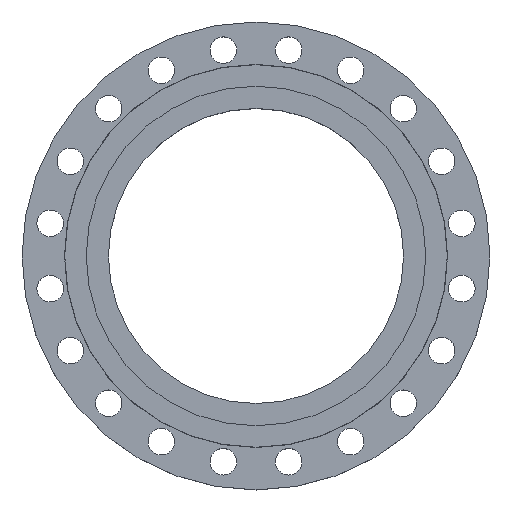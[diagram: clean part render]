
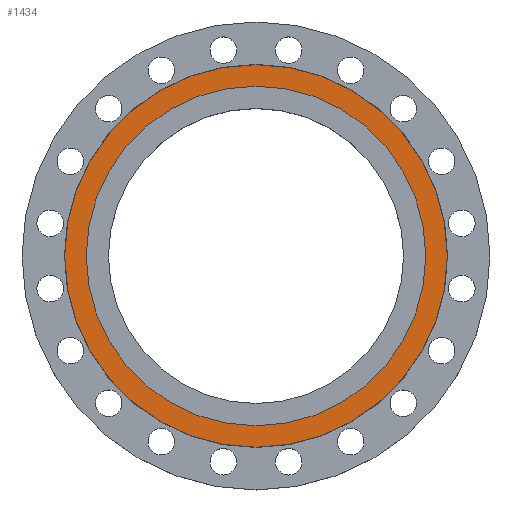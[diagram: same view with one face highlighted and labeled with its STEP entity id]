
A CAD part, top view. The second image highlights one B-rep face of the part: STEP entity #1434.
In plain terms, the highlighted planar face has unit normal (0, 0, 1).
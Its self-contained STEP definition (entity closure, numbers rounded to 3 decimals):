
#9 = AXIS2_PLACEMENT_3D ( 'NONE', #1178, #1759, #205 ) ;
#76 = VERTEX_POINT ( 'NONE', #981 ) ;
#78 = EDGE_LOOP ( 'NONE', ( #420, #418 ) ) ;
#83 = EDGE_CURVE ( 'NONE', #355, #242, #631, .T. ) ;
#86 = DIRECTION ( 'NONE',  ( 0., 0., -1. ) ) ;
#98 = VERTEX_POINT ( 'NONE', #655 ) ;
#197 = CARTESIAN_POINT ( 'NONE',  ( -248.5, 0., 0. ) ) ;
#205 = DIRECTION ( 'NONE',  ( 1., 0., 0. ) ) ;
#242 = VERTEX_POINT ( 'NONE', #197 ) ;
#251 = EDGE_CURVE ( 'NONE', #76, #98, #741, .T. ) ;
#328 = CIRCLE ( 'NONE', #1635, 280. ) ;
#355 = VERTEX_POINT ( 'NONE', #616 ) ;
#414 = ORIENTED_EDGE ( 'NONE', *, *, #83, .T. ) ;
#417 = ORIENTED_EDGE ( 'NONE', *, *, #1618, .T. ) ;
#418 = ORIENTED_EDGE ( 'NONE', *, *, #1611, .F. ) ;
#420 = ORIENTED_EDGE ( 'NONE', *, *, #251, .F. ) ;
#460 = PLANE ( 'NONE',  #9 ) ;
#602 = DIRECTION ( 'NONE',  ( 0., 0., -1. ) ) ;
#616 = CARTESIAN_POINT ( 'NONE',  ( 248.5, 0., 0. ) ) ;
#631 = CIRCLE ( 'NONE', #636, 248.5 ) ;
#636 = AXIS2_PLACEMENT_3D ( 'NONE', #736, #727, #711 ) ;
#655 = CARTESIAN_POINT ( 'NONE',  ( 280., 0., 0. ) ) ;
#711 = DIRECTION ( 'NONE',  ( -1., 0., 0. ) ) ;
#727 = DIRECTION ( 'NONE',  ( 0., 0., -1. ) ) ;
#736 = CARTESIAN_POINT ( 'NONE',  ( 0., 0., 0. ) ) ;
#741 = CIRCLE ( 'NONE', #744, 280. ) ;
#744 = AXIS2_PLACEMENT_3D ( 'NONE', #915, #2037, #929 ) ;
#915 = CARTESIAN_POINT ( 'NONE',  ( 0., 0., 0. ) ) ;
#929 = DIRECTION ( 'NONE',  ( -1., 0., 0. ) ) ;
#945 = DIRECTION ( 'NONE',  ( -1., 0., 0. ) ) ;
#980 = CIRCLE ( 'NONE', #1990, 248.5 ) ;
#981 = CARTESIAN_POINT ( 'NONE',  ( -280., 0., 0. ) ) ;
#1127 = EDGE_LOOP ( 'NONE', ( #417, #414 ) ) ;
#1178 = CARTESIAN_POINT ( 'NONE',  ( 0., 0., 0. ) ) ;
#1278 = DIRECTION ( 'NONE',  ( -1., 0., 0. ) ) ;
#1378 = FACE_OUTER_BOUND ( 'NONE', #78, .T. ) ;
#1434 = ADVANCED_FACE ( 'NONE', ( #1378, #1869 ), #460, .T. ) ;
#1611 = EDGE_CURVE ( 'NONE', #98, #76, #328, .T. ) ;
#1618 = EDGE_CURVE ( 'NONE', #242, #355, #980, .T. ) ;
#1635 = AXIS2_PLACEMENT_3D ( 'NONE', #1920, #602, #1278 ) ;
#1708 = CARTESIAN_POINT ( 'NONE',  ( 0., 0., 0. ) ) ;
#1759 = DIRECTION ( 'NONE',  ( 0., 0., 1. ) ) ;
#1869 = FACE_BOUND ( 'NONE', #1127, .T. ) ;
#1920 = CARTESIAN_POINT ( 'NONE',  ( 0., 0., 0. ) ) ;
#1990 = AXIS2_PLACEMENT_3D ( 'NONE', #1708, #86, #945 ) ;
#2037 = DIRECTION ( 'NONE',  ( 0., 0., -1. ) ) ;
